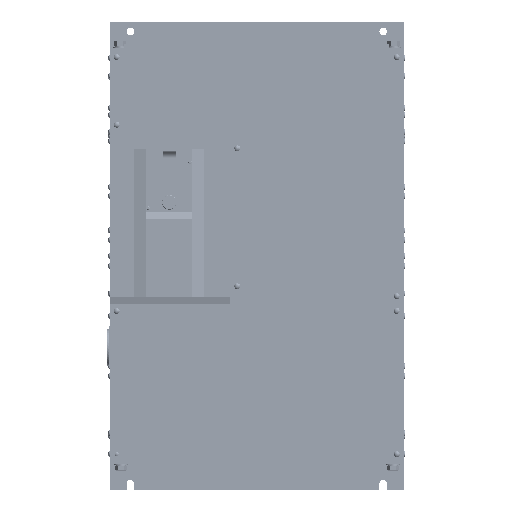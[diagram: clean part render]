
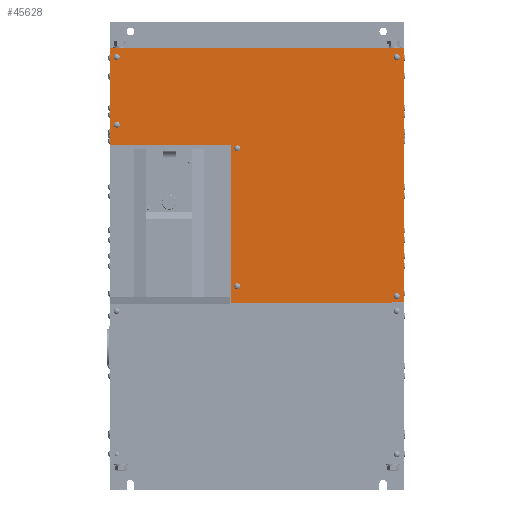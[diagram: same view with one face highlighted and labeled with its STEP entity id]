
A CAD part, top view. The second image highlights one B-rep face of the part: STEP entity #45628.
In plain terms, the highlighted planar face has unit normal (0, 0, 1).
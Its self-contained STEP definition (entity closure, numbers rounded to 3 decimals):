
#3819=DIRECTION('',(0.,1.,0.));
#3820=VECTOR('',#3819,153.);
#3821=CARTESIAN_POINT('',(0.,500.,351.3));
#3822=LINE('',#3821,#3820);
#4525=DIRECTION('',(0.,1.,0.));
#4526=VECTOR('',#4525,1.6);
#4527=CARTESIAN_POINT('',(446.,249.5,351.3));
#4528=LINE('',#4527,#4526);
#4529=DIRECTION('',(1.,0.,0.));
#4530=VECTOR('',#4529,255.);
#4531=CARTESIAN_POINT('',(191.,249.5,351.3));
#4532=LINE('',#4531,#4530);
#4533=DIRECTION('',(0.,1.,0.));
#4534=VECTOR('',#4533,250.5);
#4535=CARTESIAN_POINT('',(191.,249.5,351.3));
#4536=LINE('',#4535,#4534);
#4537=DIRECTION('',(1.,0.,0.));
#4538=VECTOR('',#4537,191.);
#4539=CARTESIAN_POINT('',(0.,500.,351.3));
#4540=LINE('',#4539,#4538);
#4541=DIRECTION('',(-1.,0.,0.));
#4542=VECTOR('',#4541,19.);
#4543=CARTESIAN_POINT('',(465.,251.1,351.3));
#4544=LINE('',#4543,#4542);
#4545=CARTESIAN_POINT('',(11.,639.,351.3));
#4546=DIRECTION('',(0.,0.,-1.));
#4547=DIRECTION('',(-1.,0.,0.));
#4548=AXIS2_PLACEMENT_3D('',#4545,#4546,#4547);
#4550=CARTESIAN_POINT('',(11.,639.,351.3));
#4551=DIRECTION('',(0.,0.,-1.));
#4552=DIRECTION('',(1.,0.,0.));
#4553=AXIS2_PLACEMENT_3D('',#4550,#4551,#4552);
#4555=CARTESIAN_POINT('',(11.,532.,351.3));
#4556=DIRECTION('',(0.,0.,-1.));
#4557=DIRECTION('',(-1.,0.,0.));
#4558=AXIS2_PLACEMENT_3D('',#4555,#4556,#4557);
#4560=CARTESIAN_POINT('',(11.,532.,351.3));
#4561=DIRECTION('',(0.,0.,-1.));
#4562=DIRECTION('',(1.,0.,0.));
#4563=AXIS2_PLACEMENT_3D('',#4560,#4561,#4562);
#4565=CARTESIAN_POINT('',(201.6,494.6,351.3));
#4566=DIRECTION('',(0.,0.,-1.));
#4567=DIRECTION('',(-1.,0.,0.));
#4568=AXIS2_PLACEMENT_3D('',#4565,#4566,#4567);
#4570=CARTESIAN_POINT('',(201.6,494.6,351.3));
#4571=DIRECTION('',(0.,0.,-1.));
#4572=DIRECTION('',(1.,0.,0.));
#4573=AXIS2_PLACEMENT_3D('',#4570,#4571,#4572);
#4575=CARTESIAN_POINT('',(201.6,276.6,351.3));
#4576=DIRECTION('',(0.,0.,-1.));
#4577=DIRECTION('',(-1.,0.,0.));
#4578=AXIS2_PLACEMENT_3D('',#4575,#4576,#4577);
#4580=CARTESIAN_POINT('',(201.6,276.6,351.3));
#4581=DIRECTION('',(0.,0.,-1.));
#4582=DIRECTION('',(1.,0.,0.));
#4583=AXIS2_PLACEMENT_3D('',#4580,#4581,#4582);
#4585=CARTESIAN_POINT('',(454.,639.,351.3));
#4586=DIRECTION('',(0.,0.,-1.));
#4587=DIRECTION('',(-1.,0.,0.));
#4588=AXIS2_PLACEMENT_3D('',#4585,#4586,#4587);
#4590=CARTESIAN_POINT('',(454.,639.,351.3));
#4591=DIRECTION('',(0.,0.,-1.));
#4592=DIRECTION('',(1.,0.,0.));
#4593=AXIS2_PLACEMENT_3D('',#4590,#4591,#4592);
#4595=CARTESIAN_POINT('',(454.,261.,351.3));
#4596=DIRECTION('',(0.,0.,-1.));
#4597=DIRECTION('',(-1.,0.,0.));
#4598=AXIS2_PLACEMENT_3D('',#4595,#4596,#4597);
#4600=CARTESIAN_POINT('',(454.,261.,351.3));
#4601=DIRECTION('',(0.,0.,-1.));
#4602=DIRECTION('',(1.,0.,0.));
#4603=AXIS2_PLACEMENT_3D('',#4600,#4601,#4602);
#5779=DIRECTION('',(0.,1.,0.));
#5780=VECTOR('',#5779,401.9);
#5781=CARTESIAN_POINT('',(465.,251.1,351.3));
#5782=LINE('',#5781,#5780);
#30426=DIRECTION('',(1.,0.,0.));
#30427=VECTOR('',#30426,465.);
#30428=CARTESIAN_POINT('',(0.,653.,351.3));
#30429=LINE('',#30428,#30427);
#34680=CARTESIAN_POINT('',(0.,653.,351.3));
#34682=VERTEX_POINT('',#34680);
#34688=CARTESIAN_POINT('',(465.,653.,351.3));
#34690=VERTEX_POINT('',#34688);
#34697=CARTESIAN_POINT('',(191.,249.5,351.3));
#34699=VERTEX_POINT('',#34697);
#34700=CARTESIAN_POINT('',(191.,500.,351.3));
#34701=VERTEX_POINT('',#34700);
#34702=CARTESIAN_POINT('',(0.,500.,351.3));
#34703=VERTEX_POINT('',#34702);
#34716=CARTESIAN_POINT('',(446.,249.5,351.3));
#34717=CARTESIAN_POINT('',(446.,251.1,351.3));
#34718=VERTEX_POINT('',#34716);
#34719=VERTEX_POINT('',#34717);
#34720=CARTESIAN_POINT('',(465.,251.1,351.3));
#34721=VERTEX_POINT('',#34720);
#34736=CARTESIAN_POINT('',(6.3,639.,351.3));
#34737=CARTESIAN_POINT('',(15.7,639.,351.3));
#34738=VERTEX_POINT('',#34736);
#34739=VERTEX_POINT('',#34737);
#34746=CARTESIAN_POINT('',(6.3,532.,351.3));
#34747=CARTESIAN_POINT('',(15.7,532.,351.3));
#34748=VERTEX_POINT('',#34746);
#34749=VERTEX_POINT('',#34747);
#34760=CARTESIAN_POINT('',(196.9,494.6,351.3));
#34761=CARTESIAN_POINT('',(206.3,494.6,351.3));
#34762=VERTEX_POINT('',#34760);
#34763=VERTEX_POINT('',#34761);
#34782=CARTESIAN_POINT('',(196.9,276.6,351.3));
#34783=CARTESIAN_POINT('',(206.3,276.6,351.3));
#34784=VERTEX_POINT('',#34782);
#34785=VERTEX_POINT('',#34783);
#34800=CARTESIAN_POINT('',(449.3,639.,351.3));
#34801=CARTESIAN_POINT('',(458.7,639.,351.3));
#34802=VERTEX_POINT('',#34800);
#34803=VERTEX_POINT('',#34801);
#34810=CARTESIAN_POINT('',(449.3,261.,351.3));
#34811=CARTESIAN_POINT('',(458.7,261.,351.3));
#34812=VERTEX_POINT('',#34810);
#34813=VERTEX_POINT('',#34811);
#45571=CARTESIAN_POINT('',(0.,249.5,351.3));
#45572=DIRECTION('',(0.,0.,1.));
#45573=DIRECTION('',(0.,1.,0.));
#45574=AXIS2_PLACEMENT_3D('',#45571,#45572,#45573);
#45575=PLANE('',#45574);
#45577=ORIENTED_EDGE('',*,*,#45576,.F.);
#45579=ORIENTED_EDGE('',*,*,#45578,.F.);
#45581=ORIENTED_EDGE('',*,*,#45580,.T.);
#45582=ORIENTED_EDGE('',*,*,#45560,.F.);
#45583=ORIENTED_EDGE('',*,*,#43972,.T.);
#45585=ORIENTED_EDGE('',*,*,#45584,.T.);
#45587=ORIENTED_EDGE('',*,*,#45586,.F.);
#45589=ORIENTED_EDGE('',*,*,#45588,.T.);
#45590=EDGE_LOOP('',(#45577,#45579,#45581,#45582,#45583,#45585,#45587,#45589));
#45591=FACE_OUTER_BOUND('',#45590,.F.);
#45593=ORIENTED_EDGE('',*,*,#45592,.F.);
#45595=ORIENTED_EDGE('',*,*,#45594,.F.);
#45596=EDGE_LOOP('',(#45593,#45595));
#45597=FACE_BOUND('',#45596,.F.);
#45599=ORIENTED_EDGE('',*,*,#45598,.F.);
#45601=ORIENTED_EDGE('',*,*,#45600,.F.);
#45602=EDGE_LOOP('',(#45599,#45601));
#45603=FACE_BOUND('',#45602,.F.);
#45605=ORIENTED_EDGE('',*,*,#45604,.F.);
#45607=ORIENTED_EDGE('',*,*,#45606,.F.);
#45608=EDGE_LOOP('',(#45605,#45607));
#45609=FACE_BOUND('',#45608,.F.);
#45611=ORIENTED_EDGE('',*,*,#45610,.F.);
#45613=ORIENTED_EDGE('',*,*,#45612,.F.);
#45614=EDGE_LOOP('',(#45611,#45613));
#45615=FACE_BOUND('',#45614,.F.);
#45617=ORIENTED_EDGE('',*,*,#45616,.F.);
#45619=ORIENTED_EDGE('',*,*,#45618,.F.);
#45620=EDGE_LOOP('',(#45617,#45619));
#45621=FACE_BOUND('',#45620,.F.);
#45623=ORIENTED_EDGE('',*,*,#45622,.F.);
#45625=ORIENTED_EDGE('',*,*,#45624,.F.);
#45626=EDGE_LOOP('',(#45623,#45625));
#45627=FACE_BOUND('',#45626,.F.);
#45628=ADVANCED_FACE('',(#45591,#45597,#45603,#45609,#45615,#45621,#45627),
#45575,.T.);
#4549=CIRCLE('',#4548,4.7);
#4554=CIRCLE('',#4553,4.7);
#4559=CIRCLE('',#4558,4.7);
#4564=CIRCLE('',#4563,4.7);
#4569=CIRCLE('',#4568,4.7);
#4574=CIRCLE('',#4573,4.7);
#4579=CIRCLE('',#4578,4.7);
#4584=CIRCLE('',#4583,4.7);
#4589=CIRCLE('',#4588,4.7);
#4594=CIRCLE('',#4593,4.7);
#4599=CIRCLE('',#4598,4.7);
#4604=CIRCLE('',#4603,4.7);
#43972=EDGE_CURVE('',#34703,#34682,#3822,.T.);
#45560=EDGE_CURVE('',#34703,#34701,#4540,.T.);
#45576=EDGE_CURVE('',#34718,#34719,#4528,.T.);
#45578=EDGE_CURVE('',#34699,#34718,#4532,.T.);
#45580=EDGE_CURVE('',#34699,#34701,#4536,.T.);
#45584=EDGE_CURVE('',#34682,#34690,#30429,.T.);
#45586=EDGE_CURVE('',#34721,#34690,#5782,.T.);
#45588=EDGE_CURVE('',#34721,#34719,#4544,.T.);
#45592=EDGE_CURVE('',#34738,#34739,#4549,.T.);
#45594=EDGE_CURVE('',#34739,#34738,#4554,.T.);
#45598=EDGE_CURVE('',#34748,#34749,#4559,.T.);
#45600=EDGE_CURVE('',#34749,#34748,#4564,.T.);
#45604=EDGE_CURVE('',#34762,#34763,#4569,.T.);
#45606=EDGE_CURVE('',#34763,#34762,#4574,.T.);
#45610=EDGE_CURVE('',#34784,#34785,#4579,.T.);
#45612=EDGE_CURVE('',#34785,#34784,#4584,.T.);
#45616=EDGE_CURVE('',#34802,#34803,#4589,.T.);
#45618=EDGE_CURVE('',#34803,#34802,#4594,.T.);
#45622=EDGE_CURVE('',#34812,#34813,#4599,.T.);
#45624=EDGE_CURVE('',#34813,#34812,#4604,.T.);
